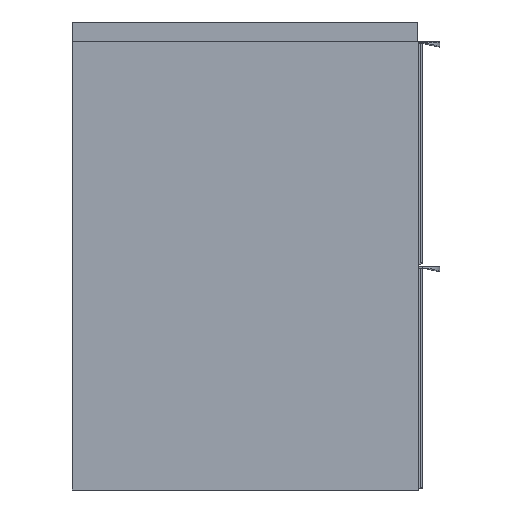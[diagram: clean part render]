
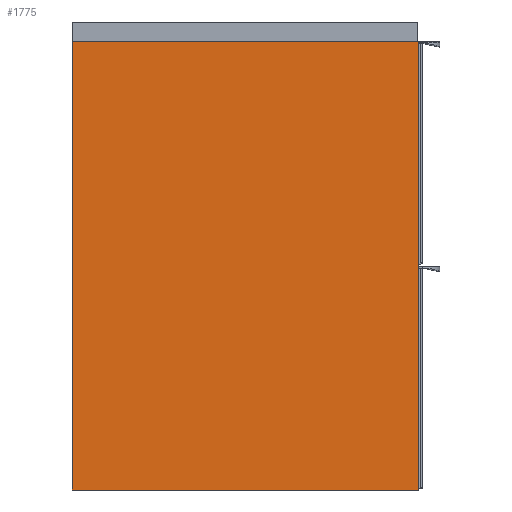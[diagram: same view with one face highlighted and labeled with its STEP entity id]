
A CAD part, left-side view. The second image highlights one B-rep face of the part: STEP entity #1775.
In plain terms, the highlighted planar face has unit normal (-1, 0, 0).
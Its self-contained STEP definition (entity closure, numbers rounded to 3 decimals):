
#1775=ADVANCED_FACE('',(#3033),#21209,.T.);
#3033=FACE_OUTER_BOUND('',#4291,.T.);
#4291=EDGE_LOOP('',(#5722,#5723,#5724,#5725));
#5722=ORIENTED_EDGE('',*,*,#12656,.F.);
#5723=ORIENTED_EDGE('',*,*,#12660,.F.);
#5724=ORIENTED_EDGE('',*,*,#12663,.F.);
#5725=ORIENTED_EDGE('',*,*,#12665,.F.);
#12656=EDGE_CURVE('',#18872,#18873,#16132,.T.);
#12660=EDGE_CURVE('',#18875,#18872,#16136,.T.);
#12663=EDGE_CURVE('',#18877,#18875,#16139,.T.);
#12665=EDGE_CURVE('',#18873,#18877,#16141,.T.);
#16132=B_SPLINE_CURVE_WITH_KNOTS('',1,(#24745,#24746),.UNSPECIFIED.,.F.,
 .F.,(2,2),(-500.,0.),.UNSPECIFIED.);
#16136=B_SPLINE_CURVE_WITH_KNOTS('',1,(#24753,#24754),.UNSPECIFIED.,.F.,
 .F.,(2,2),(-386.,0.),.UNSPECIFIED.);
#16139=B_SPLINE_CURVE_WITH_KNOTS('',1,(#24759,#24760),.UNSPECIFIED.,.F.,
 .F.,(2,2),(-500.,0.),.UNSPECIFIED.);
#16141=B_SPLINE_CURVE_WITH_KNOTS('',1,(#24763,#24764),.UNSPECIFIED.,.F.,
 .F.,(2,2),(-386.,0.),.UNSPECIFIED.);
#18872=VERTEX_POINT('',#24735);
#18873=VERTEX_POINT('',#24736);
#18875=VERTEX_POINT('',#24738);
#18877=VERTEX_POINT('',#24740);
#21209=PLANE('',#22696);
#22696=AXIS2_PLACEMENT_3D('',#24732,#23672,$);
#23672=DIRECTION('',(-1.,0.,0.));
#24732=CARTESIAN_POINT('',(3430.402,-2930.543,-40.828));
#24735=CARTESIAN_POINT('',(3430.402,-2891.823,-90.948));
#24736=CARTESIAN_POINT('',(3430.402,-2891.823,-590.948));
#24738=CARTESIAN_POINT('',(3430.402,-2505.823,-90.948));
#24740=CARTESIAN_POINT('',(3430.402,-2505.823,-590.948));
#24745=CARTESIAN_POINT('',(3430.402,-2891.823,-90.948));
#24746=CARTESIAN_POINT('',(3430.402,-2891.823,-590.948));
#24753=CARTESIAN_POINT('',(3430.402,-2505.823,-90.948));
#24754=CARTESIAN_POINT('',(3430.402,-2891.823,-90.948));
#24759=CARTESIAN_POINT('',(3430.402,-2505.823,-590.948));
#24760=CARTESIAN_POINT('',(3430.402,-2505.823,-90.948));
#24763=CARTESIAN_POINT('',(3430.402,-2891.823,-590.948));
#24764=CARTESIAN_POINT('',(3430.402,-2505.823,-590.948));
